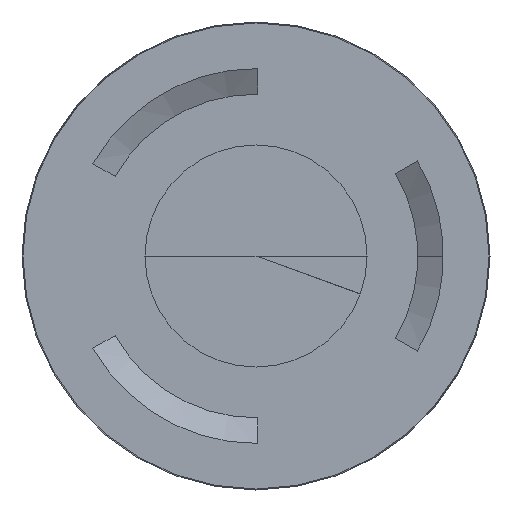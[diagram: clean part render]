
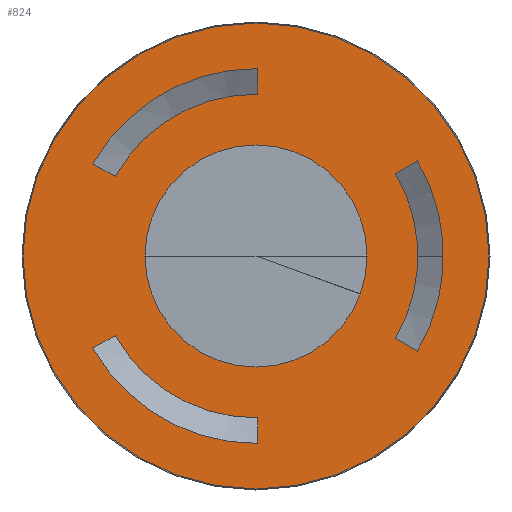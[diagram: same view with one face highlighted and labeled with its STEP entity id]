
A CAD part, front view. The second image highlights one B-rep face of the part: STEP entity #824.
In plain terms, the highlighted planar face has unit normal (0, -1, 0).
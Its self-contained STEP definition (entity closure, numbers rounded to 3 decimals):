
#193=DIRECTION('',(-0.866,0.,-0.5));
#194=VECTOR('',#193,7.092);
#195=CARTESIAN_POINT('',(-39.066,-666.,-22.04));
#196=LINE('',#195,#194);
#197=CARTESIAN_POINT('',(0.,-666.,0.));
#198=DIRECTION('',(0.,-1.,0.));
#199=DIRECTION('',(-0.87,0.,-0.493));
#200=AXIS2_PLACEMENT_3D('',#197,#198,#199);
#202=DIRECTION('',(0.,0.,1.));
#203=VECTOR('',#202,7.092);
#204=CARTESIAN_POINT('',(0.446,-666.,-51.944));
#205=LINE('',#204,#203);
#206=CARTESIAN_POINT('',(0.,-666.,0.));
#207=DIRECTION('',(0.,1.,0.));
#208=DIRECTION('',(0.01,0.,-1.));
#209=AXIS2_PLACEMENT_3D('',#206,#207,#208);
#211=CARTESIAN_POINT('',(0.,-666.,0.));
#212=DIRECTION('',(0.,1.,0.));
#213=DIRECTION('',(0.861,0.,0.509));
#214=AXIS2_PLACEMENT_3D('',#211,#212,#213);
#216=DIRECTION('',(0.866,0.,-0.5));
#217=VECTOR('',#216,7.092);
#218=CARTESIAN_POINT('',(38.62,-666.,-22.812));
#219=LINE('',#218,#217);
#220=CARTESIAN_POINT('',(0.,-666.,0.));
#221=DIRECTION('',(0.,-1.,0.));
#222=DIRECTION('',(0.862,0.,-0.507));
#223=AXIS2_PLACEMENT_3D('',#220,#221,#222);
#225=DIRECTION('',(-0.866,0.,-0.5));
#226=VECTOR('',#225,7.092);
#227=CARTESIAN_POINT('',(44.762,-666.,26.358));
#228=LINE('',#227,#226);
#229=DIRECTION('',(0.866,0.,-0.5));
#230=VECTOR('',#229,7.092);
#231=CARTESIAN_POINT('',(-45.208,-666.,25.586));
#232=LINE('',#231,#230);
#233=CARTESIAN_POINT('',(0.,-666.,0.));
#234=DIRECTION('',(0.,1.,0.));
#235=DIRECTION('',(-0.871,0.,0.491));
#236=AXIS2_PLACEMENT_3D('',#233,#234,#235);
#238=DIRECTION('',(0.,0.,1.));
#239=VECTOR('',#238,7.092);
#240=CARTESIAN_POINT('',(0.446,-666.,44.852));
#241=LINE('',#240,#239);
#242=CARTESIAN_POINT('',(0.,-666.,0.));
#243=DIRECTION('',(0.,-1.,0.));
#244=DIRECTION('',(0.009,0.,1.));
#245=AXIS2_PLACEMENT_3D('',#242,#243,#244);
#247=CARTESIAN_POINT('',(0.,-666.,0.));
#248=DIRECTION('',(0.,1.,0.));
#249=DIRECTION('',(1.,0.,0.));
#250=AXIS2_PLACEMENT_3D('',#247,#248,#249);
#252=CARTESIAN_POINT('',(0.,-666.,0.));
#253=DIRECTION('',(0.,1.,0.));
#254=DIRECTION('',(-1.,0.,0.));
#255=AXIS2_PLACEMENT_3D('',#252,#253,#254);
#257=CARTESIAN_POINT('',(0.,-666.,0.));
#258=DIRECTION('',(0.,1.,0.));
#259=DIRECTION('',(1.,0.,0.));
#260=AXIS2_PLACEMENT_3D('',#257,#258,#259);
#262=CARTESIAN_POINT('',(0.,-666.,0.));
#263=DIRECTION('',(0.,1.,0.));
#264=DIRECTION('',(-1.,0.,0.));
#265=AXIS2_PLACEMENT_3D('',#262,#263,#264);
#445=CARTESIAN_POINT('',(64.586,-666.,0.));
#446=CARTESIAN_POINT('',(-64.586,-666.,0.));
#447=VERTEX_POINT('',#445);
#448=VERTEX_POINT('',#446);
#449=CARTESIAN_POINT('',(30.784,-666.,0.));
#450=CARTESIAN_POINT('',(-30.784,-666.,0.));
#451=VERTEX_POINT('',#449);
#452=VERTEX_POINT('',#450);
#453=CARTESIAN_POINT('',(-39.066,-666.,22.04));
#454=CARTESIAN_POINT('',(-45.208,-666.,25.586));
#455=VERTEX_POINT('',#453);
#456=VERTEX_POINT('',#454);
#457=CARTESIAN_POINT('',(0.446,-666.,51.944));
#458=VERTEX_POINT('',#457);
#459=CARTESIAN_POINT('',(0.446,-666.,44.852));
#460=VERTEX_POINT('',#459);
#461=CARTESIAN_POINT('',(38.62,-666.,-22.812));
#462=CARTESIAN_POINT('',(38.62,-666.,22.812));
#463=VERTEX_POINT('',#461);
#464=VERTEX_POINT('',#462);
#465=CARTESIAN_POINT('',(44.762,-666.,26.358));
#466=VERTEX_POINT('',#465);
#467=CARTESIAN_POINT('',(44.762,-666.,-26.358));
#468=VERTEX_POINT('',#467);
#469=CARTESIAN_POINT('',(-45.208,-666.,-25.586));
#470=CARTESIAN_POINT('',(-39.066,-666.,-22.04));
#471=VERTEX_POINT('',#469);
#472=VERTEX_POINT('',#470);
#473=CARTESIAN_POINT('',(0.446,-666.,-44.852));
#474=VERTEX_POINT('',#473);
#475=CARTESIAN_POINT('',(0.446,-666.,-51.944));
#476=VERTEX_POINT('',#475);
#777=CARTESIAN_POINT('',(0.,-666.,0.));
#778=DIRECTION('',(0.,1.,0.));
#779=DIRECTION('',(1.,0.,0.));
#780=AXIS2_PLACEMENT_3D('',#777,#778,#779);
#781=PLANE('',#780);
#783=ORIENTED_EDGE('',*,*,#782,.T.);
#785=ORIENTED_EDGE('',*,*,#784,.T.);
#786=EDGE_LOOP('',(#783,#785));
#787=FACE_OUTER_BOUND('',#786,.F.);
#789=ORIENTED_EDGE('',*,*,#788,.T.);
#791=ORIENTED_EDGE('',*,*,#790,.T.);
#793=ORIENTED_EDGE('',*,*,#792,.T.);
#795=ORIENTED_EDGE('',*,*,#794,.T.);
#796=EDGE_LOOP('',(#789,#791,#793,#795));
#797=FACE_BOUND('',#796,.F.);
#799=ORIENTED_EDGE('',*,*,#798,.T.);
#801=ORIENTED_EDGE('',*,*,#800,.T.);
#803=ORIENTED_EDGE('',*,*,#802,.T.);
#805=ORIENTED_EDGE('',*,*,#804,.T.);
#806=EDGE_LOOP('',(#799,#801,#803,#805));
#807=FACE_BOUND('',#806,.F.);
#809=ORIENTED_EDGE('',*,*,#808,.F.);
#811=ORIENTED_EDGE('',*,*,#810,.F.);
#812=EDGE_LOOP('',(#809,#811));
#813=FACE_BOUND('',#812,.F.);
#815=ORIENTED_EDGE('',*,*,#814,.T.);
#817=ORIENTED_EDGE('',*,*,#816,.T.);
#819=ORIENTED_EDGE('',*,*,#818,.T.);
#821=ORIENTED_EDGE('',*,*,#820,.T.);
#822=EDGE_LOOP('',(#815,#817,#819,#821));
#823=FACE_BOUND('',#822,.F.);
#824=ADVANCED_FACE('',(#787,#797,#807,#813,#823),#781,.F.);
#201=CIRCLE('',#200,51.946);
#210=CIRCLE('',#209,44.854);
#215=CIRCLE('',#214,44.854);
#224=CIRCLE('',#223,51.946);
#237=CIRCLE('',#236,44.854);
#246=CIRCLE('',#245,51.946);
#251=CIRCLE('',#250,30.784);
#256=CIRCLE('',#255,30.784);
#261=CIRCLE('',#260,64.586);
#266=CIRCLE('',#265,64.586);
#782=EDGE_CURVE('',#447,#448,#261,.T.);
#784=EDGE_CURVE('',#448,#447,#266,.T.);
#788=EDGE_CURVE('',#464,#463,#215,.T.);
#790=EDGE_CURVE('',#463,#468,#219,.T.);
#792=EDGE_CURVE('',#468,#466,#224,.T.);
#794=EDGE_CURVE('',#466,#464,#228,.T.);
#798=EDGE_CURVE('',#456,#455,#232,.T.);
#800=EDGE_CURVE('',#455,#460,#237,.T.);
#802=EDGE_CURVE('',#460,#458,#241,.T.);
#804=EDGE_CURVE('',#458,#456,#246,.T.);
#808=EDGE_CURVE('',#451,#452,#251,.T.);
#810=EDGE_CURVE('',#452,#451,#256,.T.);
#814=EDGE_CURVE('',#472,#471,#196,.T.);
#816=EDGE_CURVE('',#471,#476,#201,.T.);
#818=EDGE_CURVE('',#476,#474,#205,.T.);
#820=EDGE_CURVE('',#474,#472,#210,.T.);
